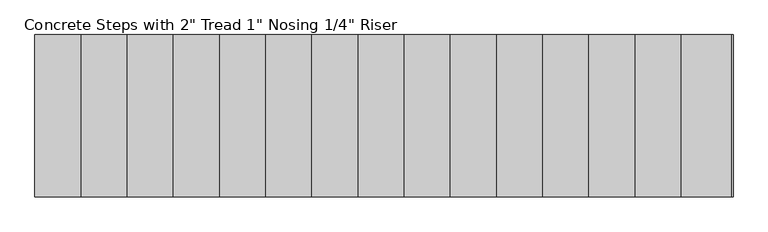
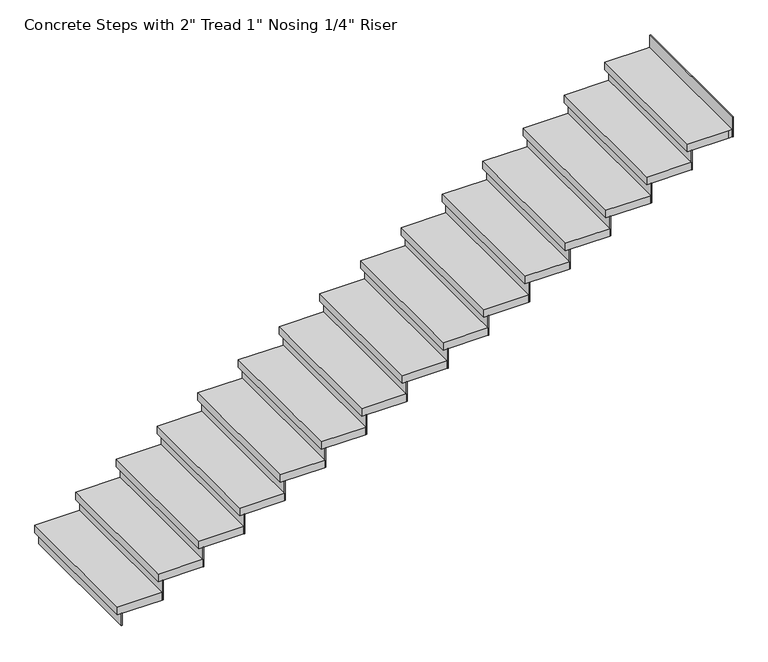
"""IFC4 building model written with IfcOpenShell, lengths in millimetres: stair flight geometry."""

from ifc_helpers import new_model, si_unit, frame, origin, origin_with_axes, place, context, project, spatial, polyline, outline, extrude, source, transform, mapped, element, save


def stair_flight_7f763b30(model_context):
    return source(origin(), model_context, "Body", "SweptSolid", [
        extrude(outline(polyline([(1403.4721922, 32679.1406645), (1397.1221922, 32679.1406645), (1397.1221922, 33593.5406645), (1403.4721922, 33593.5406645), (1403.4721922, 32679.1406645)])), origin_with_axes(), (0.0, 0.0, 1.0), 81.7217391),
        extrude(outline(polyline([(1657.4721922, 33593.5406645), (1657.4721922, 32679.1406645), (1371.7221922, 32679.1406645), (1371.7221922, 33593.5406645), (1657.4721922, 33593.5406645)])), frame((0.0, 0.0, 81.7217391), z_axis=(0.0, 0.0, 1.0), x_axis=(1.0, 0.0, 0.0)), (0.0, 0.0, 1.0), 50.8),
        extrude(outline(polyline([(1663.8221922, 32679.1406645), (1657.4721922, 32679.1406645), (1657.4721922, 33593.5406645), (1663.8221922, 33593.5406645), (1663.8221922, 32679.1406645)])), frame((0.0, 0.0, 81.7217391), z_axis=(0.0, 0.0, 1.0), x_axis=(1.0, 0.0, 0.0)), (0.0, 0.0, 1.0), 132.5217391),
        extrude(outline(polyline([(1917.8221922, 33593.5406645), (1917.8221922, 32679.1406645), (1632.0721922, 32679.1406645), (1632.0721922, 33593.5406645), (1917.8221922, 33593.5406645)])), frame((0.0, 0.0, 214.2434783), z_axis=(0.0, 0.0, 1.0), x_axis=(1.0, 0.0, 0.0)), (0.0, 0.0, 1.0), 50.8),
        extrude(outline(polyline([(1924.1721922, 32679.1406645), (1917.8221922, 32679.1406645), (1917.8221922, 33593.5406645), (1924.1721922, 33593.5406645), (1924.1721922, 32679.1406645)])), frame((0.0, 0.0, 214.2434783), z_axis=(0.0, 0.0, 1.0), x_axis=(1.0, 0.0, 0.0)), (0.0, 0.0, 1.0), 132.5217391),
        extrude(outline(polyline([(2178.1721922, 33593.5406645), (2178.1721922, 32679.1406645), (1892.4221922, 32679.1406645), (1892.4221922, 33593.5406645), (2178.1721922, 33593.5406645)])), frame((0.0, 0.0, 346.7652174), z_axis=(0.0, 0.0, 1.0), x_axis=(1.0, 0.0, 0.0)), (0.0, 0.0, 1.0), 50.8),
        extrude(outline(polyline([(2184.5221922, 32679.1406645), (2178.1721922, 32679.1406645), (2178.1721922, 33593.5406645), (2184.5221922, 33593.5406645), (2184.5221922, 32679.1406645)])), frame((0.0, 0.0, 346.7652174), z_axis=(0.0, 0.0, 1.0), x_axis=(1.0, 0.0, 0.0)), (0.0, 0.0, 1.0), 132.5217391),
        extrude(outline(polyline([(2438.5221922, 33593.5406645), (2438.5221922, 32679.1406645), (2152.7721922, 32679.1406645), (2152.7721922, 33593.5406645), (2438.5221922, 33593.5406645)])), frame((0.0, 0.0, 479.2869565), z_axis=(0.0, 0.0, 1.0), x_axis=(1.0, 0.0, 0.0)), (0.0, 0.0, 1.0), 50.8),
        extrude(outline(polyline([(2444.8721922, 32679.1406645), (2438.5221922, 32679.1406645), (2438.5221922, 33593.5406645), (2444.8721922, 33593.5406645), (2444.8721922, 32679.1406645)])), frame((0.0, 0.0, 479.2869565), z_axis=(0.0, 0.0, 1.0), x_axis=(1.0, 0.0, 0.0)), (0.0, 0.0, 1.0), 132.5217391),
        extrude(outline(polyline([(2698.8721922, 33593.5406645), (2698.8721922, 32679.1406645), (2413.1221922, 32679.1406645), (2413.1221922, 33593.5406645), (2698.8721922, 33593.5406645)])), frame((0.0, 0.0, 611.8086957), z_axis=(0.0, 0.0, 1.0), x_axis=(1.0, 0.0, 0.0)), (0.0, 0.0, 1.0), 50.8),
        extrude(outline(polyline([(2705.2221922, 32679.1406645), (2698.8721922, 32679.1406645), (2698.8721922, 33593.5406645), (2705.2221922, 33593.5406645), (2705.2221922, 32679.1406645)])), frame((0.0, 0.0, 611.8086957), z_axis=(0.0, 0.0, 1.0), x_axis=(1.0, 0.0, 0.0)), (0.0, 0.0, 1.0), 132.5217391),
        extrude(outline(polyline([(2959.2221922, 33593.5406645), (2959.2221922, 32679.1406645), (2673.4721922, 32679.1406645), (2673.4721922, 33593.5406645), (2959.2221922, 33593.5406645)])), frame((0.0, 0.0, 744.3304348), z_axis=(0.0, 0.0, 1.0), x_axis=(1.0, 0.0, 0.0)), (0.0, 0.0, 1.0), 50.8),
        extrude(outline(polyline([(2965.5721922, 32679.1406645), (2959.2221922, 32679.1406645), (2959.2221922, 33593.5406645), (2965.5721922, 33593.5406645), (2965.5721922, 32679.1406645)])), frame((0.0, 0.0, 744.3304348), z_axis=(0.0, 0.0, 1.0), x_axis=(1.0, 0.0, 0.0)), (0.0, 0.0, 1.0), 132.5217391),
        extrude(outline(polyline([(3219.5721922, 33593.5406645), (3219.5721922, 32679.1406645), (2933.8221922, 32679.1406645), (2933.8221922, 33593.5406645), (3219.5721922, 33593.5406645)])), frame((0.0, 0.0, 876.8521739), z_axis=(0.0, 0.0, 1.0), x_axis=(1.0, 0.0, 0.0)), (0.0, 0.0, 1.0), 50.8),
        extrude(outline(polyline([(3225.9221922, 32679.1406645), (3219.5721922, 32679.1406645), (3219.5721922, 33593.5406645), (3225.9221922, 33593.5406645), (3225.9221922, 32679.1406645)])), frame((0.0, 0.0, 876.8521739), z_axis=(0.0, 0.0, 1.0), x_axis=(1.0, 0.0, 0.0)), (0.0, 0.0, 1.0), 132.5217391),
        extrude(outline(polyline([(3479.9221922, 33593.5406645), (3479.9221922, 32679.1406645), (3194.1721922, 32679.1406645), (3194.1721922, 33593.5406645), (3479.9221922, 33593.5406645)])), frame((0.0, 0.0, 1009.373913), z_axis=(0.0, 0.0, 1.0), x_axis=(1.0, 0.0, 0.0)), (0.0, 0.0, 1.0), 50.8),
        extrude(outline(polyline([(3486.2721922, 32679.1406645), (3479.9221922, 32679.1406645), (3479.9221922, 33593.5406645), (3486.2721922, 33593.5406645), (3486.2721922, 32679.1406645)])), frame((0.0, 0.0, 1009.373913), z_axis=(0.0, 0.0, 1.0), x_axis=(1.0, 0.0, 0.0)), (0.0, 0.0, 1.0), 132.5217391),
        extrude(outline(polyline([(3740.2721922, 33593.5406645), (3740.2721922, 32679.1406645), (3454.5221922, 32679.1406645), (3454.5221922, 33593.5406645), (3740.2721922, 33593.5406645)])), frame((0.0, 0.0, 1141.8956522), z_axis=(0.0, 0.0, 1.0), x_axis=(1.0, 0.0, 0.0)), (0.0, 0.0, 1.0), 50.8),
        extrude(outline(polyline([(3746.6221922, 32679.1406645), (3740.2721922, 32679.1406645), (3740.2721922, 33593.5406645), (3746.6221922, 33593.5406645), (3746.6221922, 32679.1406645)])), frame((0.0, 0.0, 1141.8956522), z_axis=(0.0, 0.0, 1.0), x_axis=(1.0, 0.0, 0.0)), (0.0, 0.0, 1.0), 132.5217391),
        extrude(outline(polyline([(4000.6221922, 33593.5406645), (4000.6221922, 32679.1406645), (3714.8721922, 32679.1406645), (3714.8721922, 33593.5406645), (4000.6221922, 33593.5406645)])), frame((0.0, 0.0, 1274.4173913), z_axis=(0.0, 0.0, 1.0), x_axis=(1.0, 0.0, 0.0)), (0.0, 0.0, 1.0), 50.8),
        extrude(outline(polyline([(4006.9721922, 32679.1406645), (4000.6221922, 32679.1406645), (4000.6221922, 33593.5406645), (4006.9721922, 33593.5406645), (4006.9721922, 32679.1406645)])), frame((0.0, 0.0, 1274.4173913), z_axis=(0.0, 0.0, 1.0), x_axis=(1.0, 0.0, 0.0)), (0.0, 0.0, 1.0), 132.5217391),
        extrude(outline(polyline([(4260.9721922, 33593.5406645), (4260.9721922, 32679.1406645), (3975.2221922, 32679.1406645), (3975.2221922, 33593.5406645), (4260.9721922, 33593.5406645)])), frame((0.0, 0.0, 1406.9391304), z_axis=(0.0, 0.0, 1.0), x_axis=(1.0, 0.0, 0.0)), (0.0, 0.0, 1.0), 50.8),
        extrude(outline(polyline([(4267.3221922, 32679.1406645), (4260.9721922, 32679.1406645), (4260.9721922, 33593.5406645), (4267.3221922, 33593.5406645), (4267.3221922, 32679.1406645)])), frame((0.0, 0.0, 1406.9391304), z_axis=(0.0, 0.0, 1.0), x_axis=(1.0, 0.0, 0.0)), (0.0, 0.0, 1.0), 132.5217391),
        extrude(outline(polyline([(4521.3221922, 33593.5406645), (4521.3221922, 32679.1406645), (4235.5721922, 32679.1406645), (4235.5721922, 33593.5406645), (4521.3221922, 33593.5406645)])), frame((0.0, 0.0, 1539.4608696), z_axis=(0.0, 0.0, 1.0), x_axis=(1.0, 0.0, 0.0)), (0.0, 0.0, 1.0), 50.8),
        extrude(outline(polyline([(4527.6721922, 32679.1406645), (4521.3221922, 32679.1406645), (4521.3221922, 33593.5406645), (4527.6721922, 33593.5406645), (4527.6721922, 32679.1406645)])), frame((0.0, 0.0, 1539.4608696), z_axis=(0.0, 0.0, 1.0), x_axis=(1.0, 0.0, 0.0)), (0.0, 0.0, 1.0), 132.5217391),
        extrude(outline(polyline([(4781.6721922, 33593.5406645), (4781.6721922, 32679.1406645), (4495.9221922, 32679.1406645), (4495.9221922, 33593.5406645), (4781.6721922, 33593.5406645)])), frame((0.0, 0.0, 1671.9826087), z_axis=(0.0, 0.0, 1.0), x_axis=(1.0, 0.0, 0.0)), (0.0, 0.0, 1.0), 50.8),
        extrude(outline(polyline([(4788.0221922, 32679.1406645), (4781.6721922, 32679.1406645), (4781.6721922, 33593.5406645), (4788.0221922, 33593.5406645), (4788.0221922, 32679.1406645)])), frame((0.0, 0.0, 1671.9826087), z_axis=(0.0, 0.0, 1.0), x_axis=(1.0, 0.0, 0.0)), (0.0, 0.0, 1.0), 132.5217391),
        extrude(outline(polyline([(5042.0221922, 33593.5406645), (5042.0221922, 32679.1406645), (4756.2721922, 32679.1406645), (4756.2721922, 33593.5406645), (5042.0221922, 33593.5406645)])), frame((0.0, 0.0, 1804.5043478), z_axis=(0.0, 0.0, 1.0), x_axis=(1.0, 0.0, 0.0)), (0.0, 0.0, 1.0), 50.8),
        extrude(outline(polyline([(5308.7221922, 32679.1406645), (5302.3721922, 32679.1406645), (5302.3721922, 33593.5406645), (5308.7221922, 33593.5406645), (5308.7221922, 32679.1406645)])), frame((0.0, 0.0, 1937.026087), z_axis=(0.0, 0.0, 1.0), x_axis=(1.0, 0.0, 0.0)), (0.0, 0.0, 1.0), 132.5217391),
        extrude(outline(polyline([(5048.3721922, 32679.1406645), (5042.0221922, 32679.1406645), (5042.0221922, 33593.5406645), (5048.3721922, 33593.5406645), (5048.3721922, 32679.1406645)])), frame((0.0, 0.0, 1804.5043478), z_axis=(0.0, 0.0, 1.0), x_axis=(1.0, 0.0, 0.0)), (0.0, 0.0, 1.0), 132.5217391),
        extrude(outline(polyline([(5302.3721922, 33593.5406645), (5302.3721922, 32679.1406645), (5276.9721922, 32679.1406645), (5016.6221922, 32679.1406645), (5016.6221922, 33593.5406645), (5276.9721922, 33593.5406645), (5302.3721922, 33593.5406645)])), frame((0.0, 0.0, 1937.026087), z_axis=(0.0, 0.0, 1.0), x_axis=(1.0, 0.0, 0.0)), (0.0, 0.0, 1.0), 50.8),
    ])


if __name__ == "__main__":
    model = new_model("IFC4")
    model_context = context("Model", 3, world=origin())
    ifc_project = project(units=[si_unit("LENGTHUNIT", "METRE", prefix="MILLI")], contexts=[model_context])
    site = spatial("IfcSite", under=ifc_project)
    building = spatial("IfcBuilding", under=site)
    placement = place(None, origin())
    stair_flight_shape = stair_flight_7f763b30(model_context)
    element("IfcStairFlight", 1, ObjectType="Concrete Steps with 2\" Tread 1\" Nosing 1/4\" Riser", at=placement, inside=building, context=model_context, shape_type="MappedRepresentation", body=[
        mapped(stair_flight_shape, transform((0.0, 0.0, 0.0), x_axis=(1.0, 0.0, 0.0), y_axis=(0.0, 1.0, 0.0), z_axis=(0.0, 0.0, 1.0))),
    ])
    save(model, "model.ifc")
